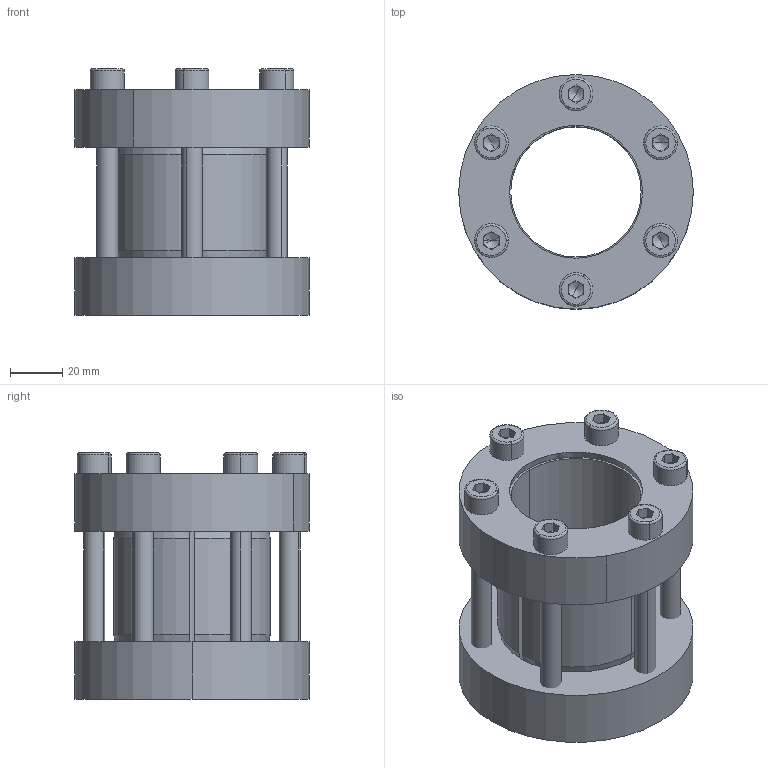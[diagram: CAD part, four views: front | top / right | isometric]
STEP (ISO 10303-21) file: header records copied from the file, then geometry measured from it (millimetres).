
FILE_DESCRIPTION (( 'STEP AP214' ), '1' );
FILE_NAME ('CONEX-M-50x90.STEP', '2017-04-14T08:55:00', ( '' ), ( '' ), 'SwSTEP 2.0', 'SolidWorks 2013', '' );
FILE_SCHEMA (( 'AUTOMOTIVE_DESIGN' ));
Length unit declared in the file: millimetre
Products named in the file (1): CONEX-M-50x90
Bounding box: 90 x 90 x 94.49 mm (x, y, z)
Volume: 245223.3 mm3; surface area: 85544.6 mm2
Topology: 9 solids, 9 shells, 214 faces, 482 edges, 286 vertices
Faces by surface type: plane 98, cylinder 58, cone 34, torus 24
Entity records: 8399 total; most frequent: DIRECTION 1122, CARTESIAN_POINT 998, ORIENTED_EDGE 940, EDGE_CURVE 470, AXIS2_PLACEMENT_3D 441, VERTEX_POINT 286, EDGE_LOOP 254, VECTOR 240
